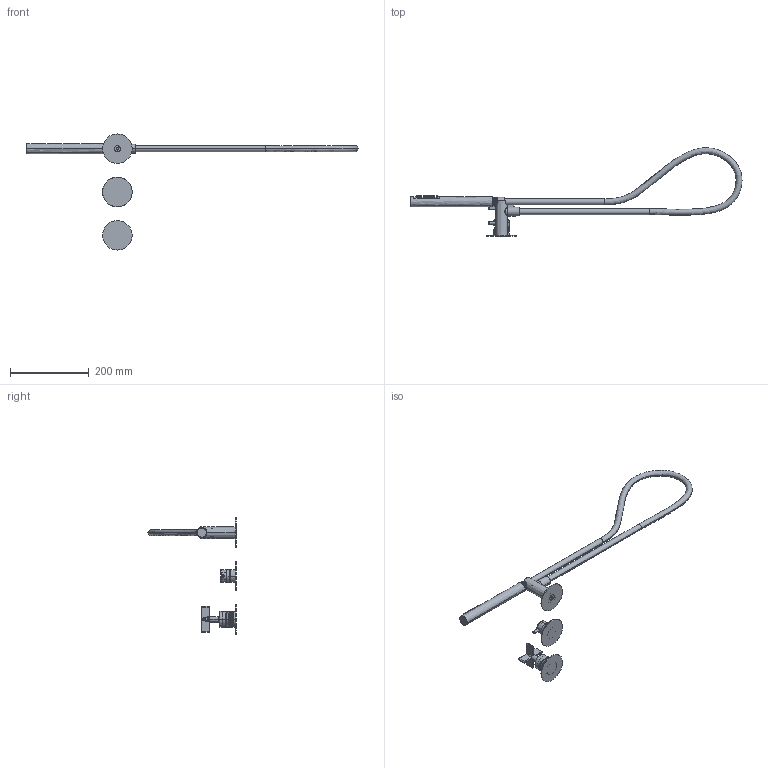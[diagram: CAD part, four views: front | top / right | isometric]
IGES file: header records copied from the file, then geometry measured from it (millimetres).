
Start section:  PTC IGES file: 39559V3.igs
Global section: file name: 39559V3.igs; native system: Creo Parametric by PTC Inc.; preprocessor: 2022014; author: carloff; organization: Unknown; date: 20241205.113201; units: millimetre
Bounding box: 842.91 x 223.99 x 295 mm (x, y, z)
Surface area: 193228.2 mm2 (no closed solid volume)
Topology: 0 solids, 0 shells, 1122 faces, 5870 edges, 5842 vertices
Faces by surface type: revolution 702, bspline 420
